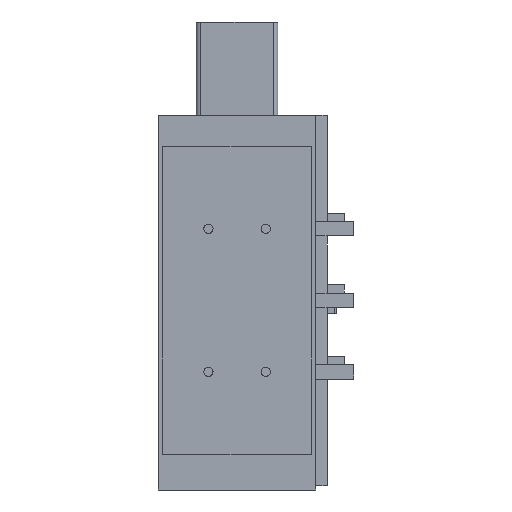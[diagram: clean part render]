
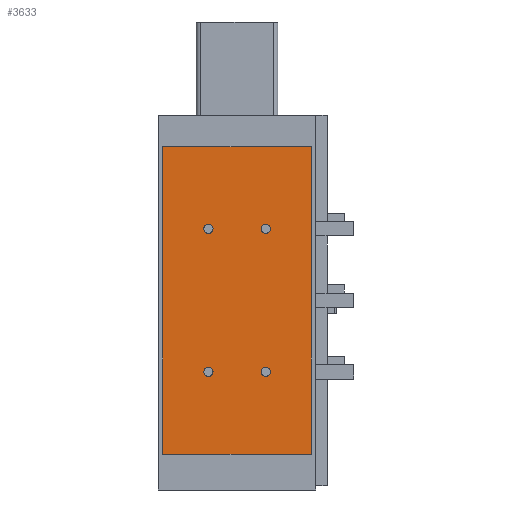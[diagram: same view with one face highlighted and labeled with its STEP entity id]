
A CAD part, front view. The second image highlights one B-rep face of the part: STEP entity #3633.
In plain terms, the highlighted planar face has unit normal (0, -1, 0).
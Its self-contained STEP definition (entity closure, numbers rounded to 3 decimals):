
#136=CARTESIAN_POINT('',(16.75,0.,182.5));
#137=VERTEX_POINT('',#136);
#138=CARTESIAN_POINT('',(20.0,0.0,182.5));
#139=DIRECTION('',(0.0,1.0,0.0));
#140=DIRECTION('',(1.0,0.0,0.0));
#141=AXIS2_PLACEMENT_3D('',#138,#139,#140);
#142=CIRCLE('',#141,3.25);
#143=EDGE_CURVE('',#137,#137,#142,.T.);
#213=CARTESIAN_POINT('',(-23.25,0.,182.5));
#214=VERTEX_POINT('',#213);
#215=CARTESIAN_POINT('',(-20.,0.0,182.5));
#216=DIRECTION('',(0.0,1.0,0.0));
#217=DIRECTION('',(1.0,0.0,0.0));
#218=AXIS2_PLACEMENT_3D('',#215,#216,#217);
#219=CIRCLE('',#218,3.25);
#220=EDGE_CURVE('',#214,#214,#219,.T.);
#290=CARTESIAN_POINT('',(16.75,0.,82.5));
#291=VERTEX_POINT('',#290);
#292=CARTESIAN_POINT('',(20.0,0.0,82.5));
#293=DIRECTION('',(0.0,1.0,0.0));
#294=DIRECTION('',(1.0,0.0,0.0));
#295=AXIS2_PLACEMENT_3D('',#292,#293,#294);
#296=CIRCLE('',#295,3.25);
#297=EDGE_CURVE('',#291,#291,#296,.T.);
#367=CARTESIAN_POINT('',(-23.25,0.,82.5));
#368=VERTEX_POINT('',#367);
#369=CARTESIAN_POINT('',(-20.,0.0,82.5));
#370=DIRECTION('',(0.0,1.0,0.0));
#371=DIRECTION('',(1.0,0.0,0.0));
#372=AXIS2_PLACEMENT_3D('',#369,#370,#371);
#373=CIRCLE('',#372,3.25);
#374=EDGE_CURVE('',#368,#368,#373,.T.);
#3542=CARTESIAN_POINT('',(52.,0.,25.));
#3543=VERTEX_POINT('',#3542);
#3550=CARTESIAN_POINT('',(-52.0,0.,25.));
#3551=VERTEX_POINT('',#3550);
#3552=CARTESIAN_POINT('',(-52.0,0.,25.));
#3553=DIRECTION('',(1.0,0.0,0.0));
#3554=VECTOR('',#3553,104.0);
#3555=LINE('',#3552,#3554);
#3556=EDGE_CURVE('',#3551,#3543,#3555,.T.);
#3573=CARTESIAN_POINT('',(-52.,0.,240.));
#3574=VERTEX_POINT('',#3573);
#3575=CARTESIAN_POINT('',(-52.0,0.,25.));
#3576=DIRECTION('',(0.0,0.0,1.0));
#3577=VECTOR('',#3576,215.);
#3578=LINE('',#3575,#3577);
#3579=EDGE_CURVE('',#3551,#3574,#3578,.T.);
#3598=CARTESIAN_POINT('',(52.0,0.,0.0));
#3599=DIRECTION('',(0.0,-1.0,0.0));
#3600=DIRECTION('',(0.0,0.0,-1.0));
#3601=AXIS2_PLACEMENT_3D('',#3598,#3599,#3600);
#3602=PLANE('',#3601);
#3603=ORIENTED_EDGE('',*,*,#3556,.T.);
#3604=CARTESIAN_POINT('',(52.,0.,240.));
#3605=VERTEX_POINT('',#3604);
#3606=CARTESIAN_POINT('',(52.,0.,25.));
#3607=DIRECTION('',(0.0,0.0,1.0));
#3608=VECTOR('',#3607,215.);
#3609=LINE('',#3606,#3608);
#3610=EDGE_CURVE('',#3543,#3605,#3609,.T.);
#3611=ORIENTED_EDGE('',*,*,#3610,.T.);
#3612=CARTESIAN_POINT('',(52.,0.,240.));
#3613=DIRECTION('',(-1.0,0.0,0.0));
#3614=VECTOR('',#3613,104.);
#3615=LINE('',#3612,#3614);
#3616=EDGE_CURVE('',#3605,#3574,#3615,.T.);
#3617=ORIENTED_EDGE('',*,*,#3616,.T.);
#3618=ORIENTED_EDGE('',*,*,#3579,.F.);
#3619=EDGE_LOOP('',(#3603,#3611,#3617,#3618));
#3620=FACE_OUTER_BOUND('',#3619,.T.);
#3621=ORIENTED_EDGE('',*,*,#143,.T.);
#3622=EDGE_LOOP('',(#3621));
#3623=FACE_BOUND('',#3622,.T.);
#3624=ORIENTED_EDGE('',*,*,#220,.T.);
#3625=EDGE_LOOP('',(#3624));
#3626=FACE_BOUND('',#3625,.T.);
#3627=ORIENTED_EDGE('',*,*,#297,.T.);
#3628=EDGE_LOOP('',(#3627));
#3629=FACE_BOUND('',#3628,.T.);
#3630=ORIENTED_EDGE('',*,*,#374,.T.);
#3631=EDGE_LOOP('',(#3630));
#3632=FACE_BOUND('',#3631,.T.);
#3633=ADVANCED_FACE('',(#3620,#3623,#3626,#3629,#3632),#3602,.T.);
